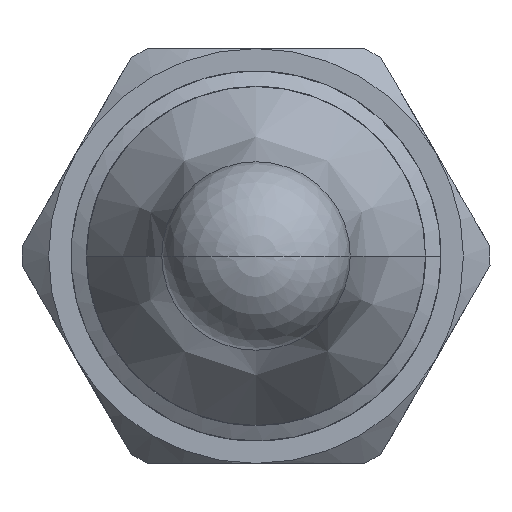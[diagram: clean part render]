
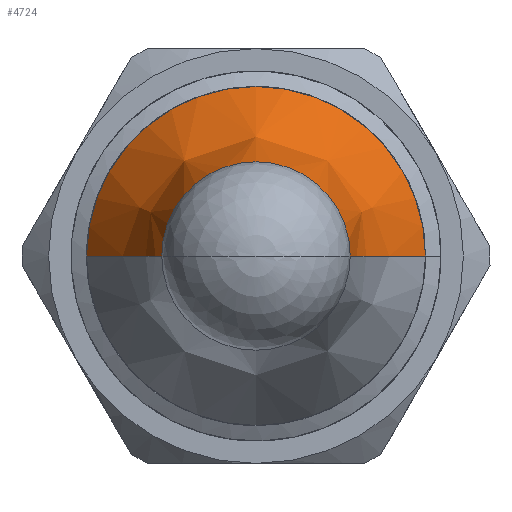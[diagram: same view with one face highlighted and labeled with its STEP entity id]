
A CAD part, front view. The second image highlights one B-rep face of the part: STEP entity #4724.
In plain terms, the highlighted free-form (B-spline) face has degree [2, 3] with [3, 4] control points.
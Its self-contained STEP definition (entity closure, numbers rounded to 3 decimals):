
#11 = CARTESIAN_POINT ( 'NONE',  ( 8.99, -26.8, 0. ) ) ;
#135 = CARTESIAN_POINT ( 'NONE',  ( -5., -36., 0. ) ) ;
#379 = CARTESIAN_POINT ( 'NONE',  ( 5., -36., 10. ) ) ;
#410 = CARTESIAN_POINT ( 'NONE',  ( 5.664, -31.124, 0. ) ) ;
#574 = CARTESIAN_POINT ( 'NONE',  ( -5.664, -31.124, 11.328 ) ) ;
#715 = CARTESIAN_POINT ( 'NONE',  ( -8.99, -26.8, 0. ) ) ;
#832 = CARTESIAN_POINT ( 'NONE',  ( -5.664, -31.124, 0. ) ) ;
#852 = EDGE_LOOP ( 'NONE', ( #1789, #4716, #3186, #2554 ) ) ;
#901 = CARTESIAN_POINT ( 'NONE',  ( 8.99, -26.8, 0. ) ) ;
#924 = CARTESIAN_POINT ( 'NONE',  ( -5.664, -31.124, 0. ) ) ;
#1130 = AXIS2_PLACEMENT_3D ( 'NONE', #2567, #4301, #3989 ) ;
#1712 = CARTESIAN_POINT ( 'NONE',  ( 5., -36., 0. ) ) ;
#1789 = ORIENTED_EDGE ( 'NONE', *, *, #4736, .F. ) ;
#2127 = VERTEX_POINT ( 'NONE', #135 ) ;
#2173 = CARTESIAN_POINT ( 'NONE',  ( 5., -36., 0. ) ) ;
#2402 =( BOUNDED_SURFACE ( )  B_SPLINE_SURFACE ( 2, 3, ( 
 ( #4760, #4315, #3518, #4341 ),
 ( #924, #574, #3058, #410 ),
 ( #4372, #4791, #379, #2173 ) ),
 .UNSPECIFIED., .F., .F., .T. ) 
 B_SPLINE_SURFACE_WITH_KNOTS ( ( 3, 3 ),
 ( 4, 4 ),
 ( 0., 0.667 ),
 ( 0., 1. ),
 .UNSPECIFIED. ) 
 GEOMETRIC_REPRESENTATION_ITEM ( )  RATIONAL_B_SPLINE_SURFACE ( (
 ( 1., 0.333, 0.333, 1.),
 ( 1., 0.333, 0.333, 1.),
 ( 1., 0.333, 0.333, 1.) ) ) 
 REPRESENTATION_ITEM ( '' )  SURFACE ( )  );
#2433 = CIRCLE ( 'NONE', #4898, 8.99 ) ;
#2554 = ORIENTED_EDGE ( 'NONE', *, *, #4293, .T. ) ;
#2567 = CARTESIAN_POINT ( 'NONE',  ( 0., -36., 0. ) ) ;
#2818 = VERTEX_POINT ( 'NONE', #3354 ) ;
#3058 = CARTESIAN_POINT ( 'NONE',  ( 5.664, -31.124, 11.328 ) ) ;
#3186 = ORIENTED_EDGE ( 'NONE', *, *, #4215, .T. ) ;
#3243 = B_SPLINE_CURVE_WITH_KNOTS ( 'NONE', 2,
 ( #11, #3547, #1712 ),
 .UNSPECIFIED., .F., .F.,
 ( 3, 3 ),
 ( 0., 0.667 ),
 .UNSPECIFIED. ) ;
#3278 = EDGE_CURVE ( 'NONE', #2818, #3588, #2433, .T. ) ;
#3354 = CARTESIAN_POINT ( 'NONE',  ( -8.99, -26.8, 0. ) ) ;
#3518 = CARTESIAN_POINT ( 'NONE',  ( 8.99, -26.8, 17.98 ) ) ;
#3522 = CARTESIAN_POINT ( 'NONE',  ( 0., -26.8, 0. ) ) ;
#3547 = CARTESIAN_POINT ( 'NONE',  ( 5.664, -31.124, 0. ) ) ;
#3588 = VERTEX_POINT ( 'NONE', #901 ) ;
#3622 = CIRCLE ( 'NONE', #1130, 5. ) ;
#3654 = FACE_OUTER_BOUND ( 'NONE', #852, .T. ) ;
#3736 = B_SPLINE_CURVE_WITH_KNOTS ( 'NONE', 2,
 ( #715, #832, #4751 ),
 .UNSPECIFIED., .F., .F.,
 ( 3, 3 ),
 ( 0., 0.667 ),
 .UNSPECIFIED. ) ;
#3989 = DIRECTION ( 'NONE',  ( -1., 0., 0. ) ) ;
#4013 = CARTESIAN_POINT ( 'NONE',  ( 5., -36., 0. ) ) ;
#4215 = EDGE_CURVE ( 'NONE', #2818, #2127, #3736, .T. ) ;
#4293 = EDGE_CURVE ( 'NONE', #2127, #5325, #3622, .T. ) ;
#4301 = DIRECTION ( 'NONE',  ( 0., 1., 0. ) ) ;
#4315 = CARTESIAN_POINT ( 'NONE',  ( -8.99, -26.8, 17.98 ) ) ;
#4341 = CARTESIAN_POINT ( 'NONE',  ( 8.99, -26.8, 0. ) ) ;
#4372 = CARTESIAN_POINT ( 'NONE',  ( -5., -36., 0. ) ) ;
#4408 = DIRECTION ( 'NONE',  ( -1., 0., 0. ) ) ;
#4582 = DIRECTION ( 'NONE',  ( 0., 1., 0. ) ) ;
#4716 = ORIENTED_EDGE ( 'NONE', *, *, #3278, .F. ) ;
#4724 = ADVANCED_FACE ( 'NONE', ( #3654 ), #2402, .T. ) ;
#4736 = EDGE_CURVE ( 'NONE', #3588, #5325, #3243, .T. ) ;
#4751 = CARTESIAN_POINT ( 'NONE',  ( -5., -36., 0. ) ) ;
#4760 = CARTESIAN_POINT ( 'NONE',  ( -8.99, -26.8, 0. ) ) ;
#4791 = CARTESIAN_POINT ( 'NONE',  ( -5., -36., 10. ) ) ;
#4898 = AXIS2_PLACEMENT_3D ( 'NONE', #3522, #4582, #4408 ) ;
#5325 = VERTEX_POINT ( 'NONE', #4013 ) ;
